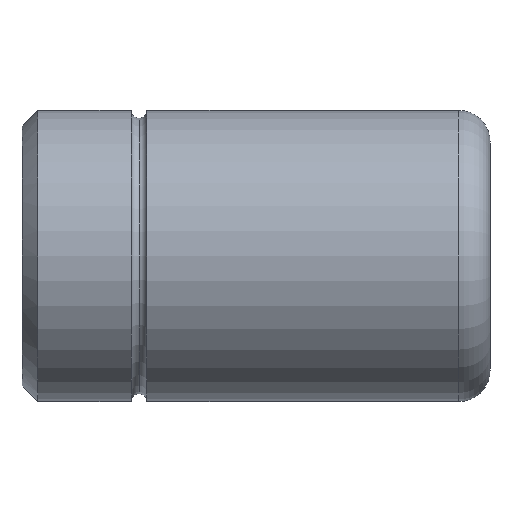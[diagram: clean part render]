
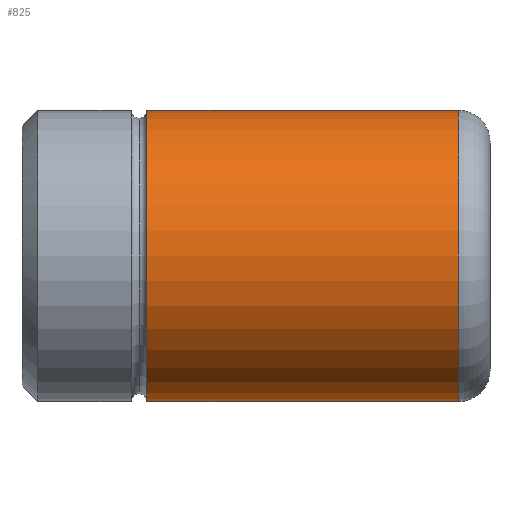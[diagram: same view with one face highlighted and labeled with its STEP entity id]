
A CAD part, front view. The second image highlights one B-rep face of the part: STEP entity #825.
In plain terms, the highlighted cylindrical face has radius 14 mm (diameter 28 mm), a partial arc.
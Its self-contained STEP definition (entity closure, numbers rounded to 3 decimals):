
#641=CARTESIAN_POINT('Vertex',(12.,0.,14.)) ;
#648=CARTESIAN_POINT('Vertex',(12.,0.,-14.)) ;
#674=CARTESIAN_POINT('Axis2P3D Location',(12.,0.,0.)) ;
#678=CARTESIAN_POINT('Vertex',(12.,-14.,0.)) ;
#681=CARTESIAN_POINT('Axis2P3D Location',(12.,0.,0.)) ;
#765=CARTESIAN_POINT('Line Origine',(45.,0.,14.)) ;
#769=CARTESIAN_POINT('Vertex',(42.,0.,14.)) ;
#783=CARTESIAN_POINT('Vertex',(42.,0.,-14.)) ;
#786=CARTESIAN_POINT('Line Origine',(45.,0.,-14.)) ;
#800=CARTESIAN_POINT('Axis2P3D Location',(45.,0.,0.)) ;
#805=CARTESIAN_POINT('Axis2P3D Location',(42.,0.,0.)) ;
#809=CARTESIAN_POINT('Vertex',(42.,-14.,0.)) ;
#812=CARTESIAN_POINT('Axis2P3D Location',(42.,0.,0.)) ;
#675=DIRECTION('Axis2P3D Direction',(1.,0.,-0.)) ;
#682=DIRECTION('Axis2P3D Direction',(1.,0.,-0.)) ;
#766=DIRECTION('Vector Direction',(-1.,0.,0.)) ;
#787=DIRECTION('Vector Direction',(-1.,0.,0.)) ;
#801=DIRECTION('Axis2P3D Direction',(-1.,-0.,-0.)) ;
#802=DIRECTION('Axis2P3D XDirection',(0.,0.,-1.)) ;
#806=DIRECTION('Axis2P3D Direction',(-1.,-0.,-0.)) ;
#813=DIRECTION('Axis2P3D Direction',(-1.,-0.,-0.)) ;
#676=AXIS2_PLACEMENT_3D('Circle Axis2P3D',#674,#675,$) ;
#683=AXIS2_PLACEMENT_3D('Circle Axis2P3D',#681,#682,$) ;
#803=AXIS2_PLACEMENT_3D('Cylinder Axis2P3D',#800,#801,#802) ;
#807=AXIS2_PLACEMENT_3D('Circle Axis2P3D',#805,#806,$) ;
#814=AXIS2_PLACEMENT_3D('Circle Axis2P3D',#812,#813,$) ;
#818=ORIENTED_EDGE('',*,*,#790,.T.) ;
#819=ORIENTED_EDGE('',*,*,#811,.F.) ;
#820=ORIENTED_EDGE('',*,*,#816,.F.) ;
#821=ORIENTED_EDGE('',*,*,#771,.T.) ;
#822=ORIENTED_EDGE('',*,*,#685,.T.) ;
#823=ORIENTED_EDGE('',*,*,#680,.T.) ;
#767=VECTOR('Line Direction',#766,1.) ;
#788=VECTOR('Line Direction',#787,1.) ;
#825=ADVANCED_FACE('347-17 x 45',(#824),#804,.T.) ;
#677=CIRCLE('generated circle',#676,14.) ;
#684=CIRCLE('generated circle',#683,14.) ;
#808=CIRCLE('generated circle',#807,14.) ;
#815=CIRCLE('generated circle',#814,14.) ;
#804=CYLINDRICAL_SURFACE('generated cylinder',#803,14.) ;
#680=EDGE_CURVE('',#679,#649,#677,.T.) ;
#685=EDGE_CURVE('',#642,#679,#684,.T.) ;
#771=EDGE_CURVE('',#770,#642,#768,.T.) ;
#790=EDGE_CURVE('',#649,#784,#789,.F.) ;
#811=EDGE_CURVE('',#810,#784,#808,.F.) ;
#816=EDGE_CURVE('',#770,#810,#815,.F.) ;
#817=EDGE_LOOP('',(#818,#819,#820,#821,#822,#823)) ;
#824=FACE_OUTER_BOUND('',#817,.T.) ;
#768=LINE('Line',#765,#767) ;
#789=LINE('Line',#786,#788) ;
#642=VERTEX_POINT('',#641) ;
#649=VERTEX_POINT('',#648) ;
#679=VERTEX_POINT('',#678) ;
#770=VERTEX_POINT('',#769) ;
#784=VERTEX_POINT('',#783) ;
#810=VERTEX_POINT('',#809) ;
